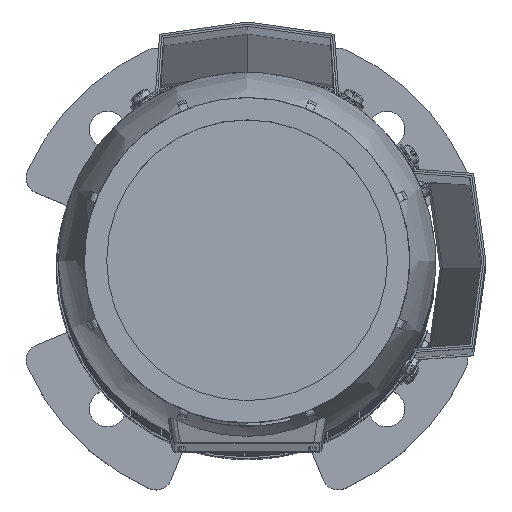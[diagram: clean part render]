
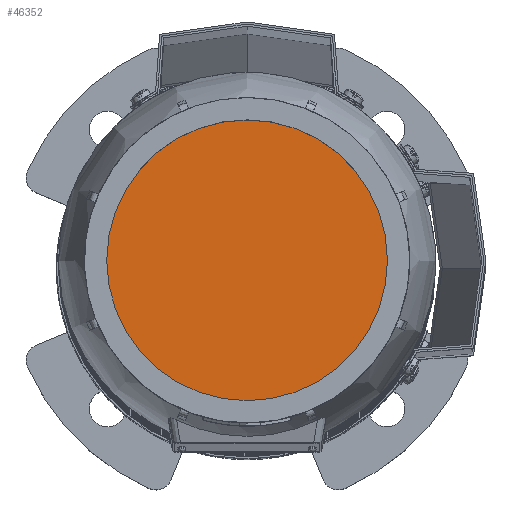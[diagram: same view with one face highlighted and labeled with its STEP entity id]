
A CAD part, top view. The second image highlights one B-rep face of the part: STEP entity #46352.
In plain terms, the highlighted planar face has unit normal (0, 0, 1) as drawn and (0, 1, 0) by its records, which use the part's own axes.
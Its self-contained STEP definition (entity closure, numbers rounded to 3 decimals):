
#9745=ORIENTED_EDGE('',*,*,#23691,.F.);
#23691=EDGE_CURVE('',#30664,#30664,#35371,.T.);
#30664=VERTEX_POINT('',#66995);
#35371=CIRCLE('',#48911,67.736);
#37493=EDGE_LOOP('',(#9745));
#40907=FACE_BOUND('',#37493,.T.);
#44339=PLANE('',#48910);
#46352=ADVANCED_FACE('',(#40907),#44339,.F.);
#48910=AXIS2_PLACEMENT_3D('',#66993,#53524,#53525);
#48911=AXIS2_PLACEMENT_3D('',#66994,#53526,#53527);
#53524=DIRECTION('',(0.,-1.,0.));
#53525=DIRECTION('',(0.,0.,-1.));
#53526=DIRECTION('',(0.,-1.,0.));
#53527=DIRECTION('',(0.,0.,-1.));
#66993=CARTESIAN_POINT('',(0.,154.,0.));
#66994=CARTESIAN_POINT('',(0.,154.,0.));
#66995=CARTESIAN_POINT('',(0.,154.,-67.736));
